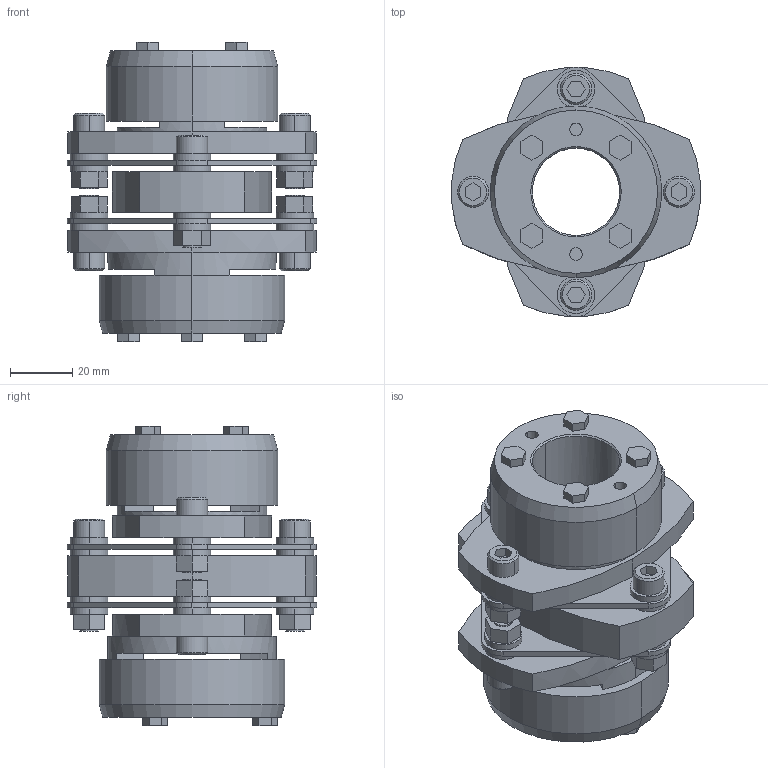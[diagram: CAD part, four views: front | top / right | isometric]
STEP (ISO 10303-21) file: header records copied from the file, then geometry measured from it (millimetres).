
FILE_DESCRIPTION((''),'2;1');
FILE_NAME('LCD-80T7-28×35.stp','2011-09-15T15:58:25',(''),(''),'AutoCAD STEP 2000i','AutoCAD 2000i',', , ');
FILE_SCHEMA(('CONFIG_CONTROL_DESIGN'));
Length unit declared in the file: millimetre
Products named in the file (14): LCD-80T7-28×35; 忣兜1; LC80T7-T035; LC80T7-T032; LC80T7-T030; LC80T7-T028-1; LC80T7-T028; LC80T7-T024; LC80T7-T022; LC80T7-T019-1; LC80T7-T019; LC80T7-T017-1; LC80T7-T017; LCD80-ITA
Assembly tree (13 placements, depth 2):
  LCD-80T7-28×35
    忣兜1
    LC80T7-T035
    LC80T7-T032
    LC80T7-T030
    LC80T7-T028-1
    LC80T7-T028
    LC80T7-T024
    LC80T7-T022
    LC80T7-T019-1
    LC80T7-T019
    LC80T7-T017-1
    LC80T7-T017
    LCD80-ITA
Bounding box: 80 x 79.95 x 96.1 mm (x, y, z)
Volume: 170392.1 mm3; surface area: 57560.3 mm2
Topology: 1 solids, 1 shells, 330 faces, 806 edges, 528 vertices
Faces by surface type: plane 186, cylinder 120, cone 24
Entity records: 10063 total; most frequent: DIRECTION 1782, CARTESIAN_POINT 1678, ORIENTED_EDGE 1612, EDGE_CURVE 806, AXIS2_PLACEMENT_3D 632, VERTEX_POINT 528, VECTOR 518, LINE 518
